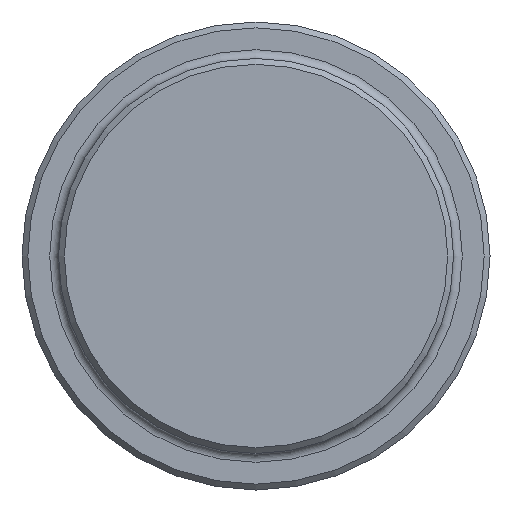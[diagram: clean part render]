
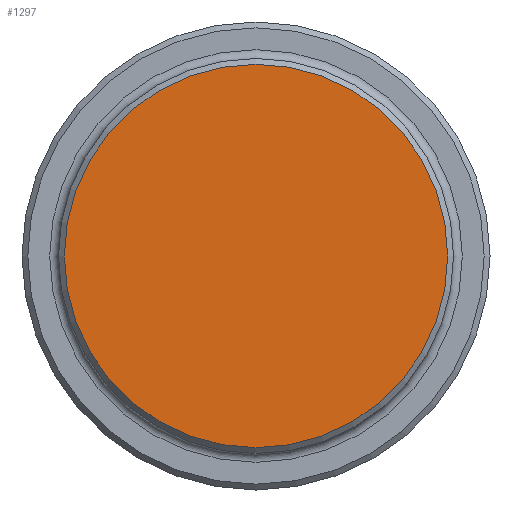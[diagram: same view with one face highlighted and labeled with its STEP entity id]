
A CAD part, left-side view. The second image highlights one B-rep face of the part: STEP entity #1297.
In plain terms, the highlighted planar face has unit normal (-1, 0, 0).
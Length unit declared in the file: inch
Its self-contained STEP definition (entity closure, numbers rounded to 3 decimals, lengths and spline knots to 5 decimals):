
#493 = PLANE ( 'NONE',  #1303 ) ;
#523 = ORIENTED_EDGE ( 'NONE', *, *, #1967, .T. ) ;
#599 = DIRECTION ( 'NONE',  ( 0., 0., -1. ) ) ;
#667 = DIRECTION ( 'NONE',  ( 0., 0., -1. ) ) ;
#691 = VERTEX_POINT ( 'NONE', #868 ) ;
#868 = CARTESIAN_POINT ( 'NONE',  ( 0., 0., -1.97 ) ) ;
#870 = EDGE_LOOP ( 'NONE', ( #523 ) ) ;
#972 = DIRECTION ( 'NONE',  ( 1., 0., 0. ) ) ;
#1288 = CARTESIAN_POINT ( 'NONE',  ( 0., 0., 0. ) ) ;
#1297 = ADVANCED_FACE ( 'NONE', ( #2185 ), #493, .F. ) ;
#1303 = AXIS2_PLACEMENT_3D ( 'NONE', #1931, #972, #667 ) ;
#1626 = DIRECTION ( 'NONE',  ( -1., 0., 0. ) ) ;
#1931 = CARTESIAN_POINT ( 'NONE',  ( 0., 0., 0. ) ) ;
#1967 = EDGE_CURVE ( 'NONE', #691, #691, #2091, .T. ) ;
#2014 = AXIS2_PLACEMENT_3D ( 'NONE', #1288, #1626, #599 ) ;
#2091 = CIRCLE ( 'NONE', #2014, 1.97 ) ;
#2185 = FACE_OUTER_BOUND ( 'NONE', #870, .T. ) ;
